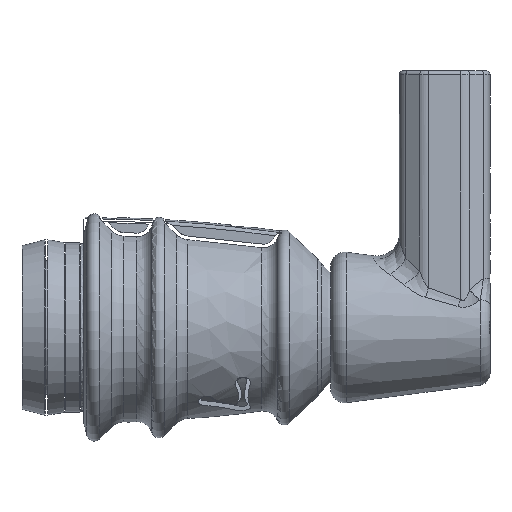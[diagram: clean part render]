
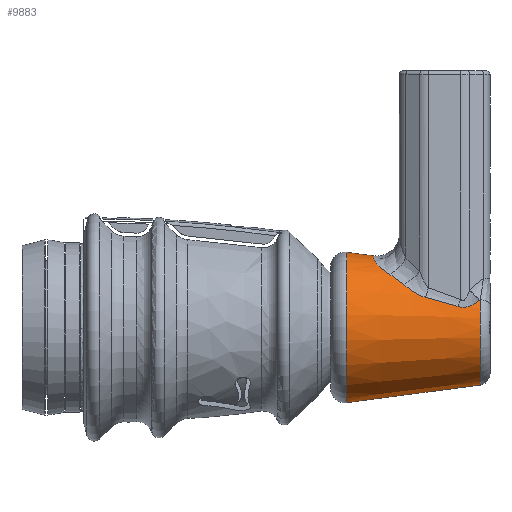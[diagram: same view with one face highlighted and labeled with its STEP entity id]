
A CAD part, left-side view. The second image highlights one B-rep face of the part: STEP entity #9883.
In plain terms, the highlighted conical face has half-angle 7.543 degrees and reference radius 8.793 mm.
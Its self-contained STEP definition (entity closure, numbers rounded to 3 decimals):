
#6192=DIRECTION('',(0.,0.991,0.131));
#6193=VECTOR('',#6192,3.616);
#6194=CARTESIAN_POINT('',(0.,-23.96,9.488));
#6195=LINE('',#6194,#6193);
#6196=CARTESIAN_POINT('',(0.,-23.96,0.));
#6197=DIRECTION('',(0.,-1.,0.));
#6198=DIRECTION('',(0.,0.,1.));
#6199=AXIS2_PLACEMENT_3D('',#6196,#6197,#6198);
#6201=CARTESIAN_POINT('',(-2.767,-23.96,
9.076));
#6202=CARTESIAN_POINT('',(-2.847,-23.96,
9.051));
#6203=CARTESIAN_POINT('',(-3.008,-23.967,
8.999));
#6204=CARTESIAN_POINT('',(-3.254,-23.997,
8.909));
#6205=CARTESIAN_POINT('',(-3.502,-24.048,
8.807));
#6206=CARTESIAN_POINT('',(-3.754,-24.122,
8.692));
#6207=CARTESIAN_POINT('',(-4.009,-24.221,
8.563));
#6208=CARTESIAN_POINT('',(-4.266,-24.346,
8.42));
#6209=CARTESIAN_POINT('',(-4.524,-24.5,
8.261));
#6210=CARTESIAN_POINT('',(-4.78,-24.684,
8.087));
#6211=CARTESIAN_POINT('',(-5.033,-24.901,
7.898));
#6212=CARTESIAN_POINT('',(-5.28,-25.151,
7.695));
#6213=CARTESIAN_POINT('',(-5.515,-25.432,
7.482));
#6214=CARTESIAN_POINT('',(-5.734,-25.744,
7.263));
#6215=CARTESIAN_POINT('',(-5.869,-25.973,
7.114));
#6216=CARTESIAN_POINT('',(-5.933,-26.093,
7.039));
#6218=CARTESIAN_POINT('',(-5.933,-26.093,
7.039));
#6219=CARTESIAN_POINT('',(-6.048,-26.307,
6.905));
#6220=CARTESIAN_POINT('',(-6.275,-26.731,
6.628));
#6221=CARTESIAN_POINT('',(-6.605,-27.347,
6.18));
#6222=CARTESIAN_POINT('',(-6.818,-27.743,
5.859));
#6223=CARTESIAN_POINT('',(-6.922,-27.936,
5.692));
#6225=CARTESIAN_POINT('',(-6.922,-27.936,
5.692));
#6226=CARTESIAN_POINT('',(-6.967,-28.02,
5.62));
#6227=CARTESIAN_POINT('',(-7.049,-28.183,
5.483));
#6228=CARTESIAN_POINT('',(-7.149,-28.412,
5.3));
#6229=CARTESIAN_POINT('',(-7.232,-28.624,
5.138));
#6230=CARTESIAN_POINT('',(-7.299,-28.816,
4.997));
#6231=CARTESIAN_POINT('',(-7.355,-28.998,
4.87));
#6232=CARTESIAN_POINT('',(-7.405,-29.179,
4.751));
#6233=CARTESIAN_POINT('',(-7.45,-29.368,
4.632));
#6234=CARTESIAN_POINT('',(-7.491,-29.567,
4.515));
#6235=CARTESIAN_POINT('',(-7.525,-29.775,
4.402));
#6236=CARTESIAN_POINT('',(-7.554,-29.987,
4.297));
#6237=CARTESIAN_POINT('',(-7.574,-30.195,
4.205));
#6238=CARTESIAN_POINT('',(-7.587,-30.403,
4.124));
#6239=CARTESIAN_POINT('',(-7.593,-30.614,
4.054));
#6240=CARTESIAN_POINT('',(-7.592,-30.742,
4.019));
#6241=CARTESIAN_POINT('',(-7.591,-30.804,
4.004));
#6243=CARTESIAN_POINT('',(-7.591,-30.804,
4.004));
#6244=CARTESIAN_POINT('',(-7.584,-31.157,
3.917));
#6245=CARTESIAN_POINT('',(-7.569,-31.857,
3.741));
#6246=CARTESIAN_POINT('',(-7.55,-32.835,
3.482));
#6247=CARTESIAN_POINT('',(-7.528,-33.892,
3.186));
#6248=CARTESIAN_POINT('',(-7.512,-34.696,
2.942));
#6249=CARTESIAN_POINT('',(-7.504,-35.116,
2.805));
#6251=CARTESIAN_POINT('',(-7.504,-35.116,
2.805));
#6252=CARTESIAN_POINT('',(-7.503,-35.162,
2.79));
#6253=CARTESIAN_POINT('',(-7.5,-35.25,
2.764));
#6254=CARTESIAN_POINT('',(-7.494,-35.371,
2.735));
#6255=CARTESIAN_POINT('',(-7.486,-35.483,
2.714));
#6256=CARTESIAN_POINT('',(-7.476,-35.587,
2.699));
#6257=CARTESIAN_POINT('',(-7.466,-35.686,
2.69));
#6258=CARTESIAN_POINT('',(-7.454,-35.782,
2.685));
#6259=CARTESIAN_POINT('',(-7.44,-35.88,
2.684));
#6260=CARTESIAN_POINT('',(-7.425,-35.982,
2.689));
#6261=CARTESIAN_POINT('',(-7.406,-36.09,
2.699));
#6262=CARTESIAN_POINT('',(-7.383,-36.206,
2.715));
#6263=CARTESIAN_POINT('',(-7.356,-36.334,
2.741));
#6264=CARTESIAN_POINT('',(-7.322,-36.476,
2.778));
#6265=CARTESIAN_POINT('',(-7.281,-36.628,
2.827));
#6266=CARTESIAN_POINT('',(-7.234,-36.788,
2.889));
#6267=CARTESIAN_POINT('',(-7.178,-36.96,
2.966));
#6268=CARTESIAN_POINT('',(-7.113,-37.142,
3.06));
#6269=CARTESIAN_POINT('',(-7.036,-37.334,
3.171));
#6270=CARTESIAN_POINT('',(-6.947,-37.538,
3.3));
#6271=CARTESIAN_POINT('',(-6.842,-37.754,
3.45));
#6272=CARTESIAN_POINT('',(-6.759,-37.906,
3.565));
#6273=CARTESIAN_POINT('',(-6.715,-37.984,
3.626));
#6275=CARTESIAN_POINT('',(-6.715,-37.984,
3.626));
#6276=CARTESIAN_POINT('',(-6.71,-37.992,
3.632));
#6277=CARTESIAN_POINT('',(-6.702,-38.007,
3.643));
#6278=CARTESIAN_POINT('',(-6.689,-38.029,
3.66));
#6279=CARTESIAN_POINT('',(-6.681,-38.044,
3.672));
#6280=CARTESIAN_POINT('',(-6.677,-38.051,
3.678));
#6282=DIRECTION('',(0.,0.991,-0.131));
#6283=VECTOR('',#6282,17.829);
#6284=CARTESIAN_POINT('',(0.,-38.051,-7.622));
#6285=LINE('',#6284,#6283);
#7369=CARTESIAN_POINT('',(0.,-38.051,0.));
#7370=DIRECTION('',(0.,1.,0.));
#7371=DIRECTION('',(0.,0.,-1.));
#7372=AXIS2_PLACEMENT_3D('',#7369,#7370,#7371);
#7550=CARTESIAN_POINT('',(0.,-20.376,0.));
#7551=DIRECTION('',(0.,-1.,0.));
#7552=DIRECTION('',(0.,0.,1.));
#7553=AXIS2_PLACEMENT_3D('',#7550,#7551,#7552);
#9122=CARTESIAN_POINT('',(0.,-38.051,-7.622));
#9123=CARTESIAN_POINT('',(0.,-20.376,-9.963));
#9124=VERTEX_POINT('',#9122);
#9125=VERTEX_POINT('',#9123);
#9126=CARTESIAN_POINT('',(0.,-23.96,9.488));
#9127=CARTESIAN_POINT('',(0.,-20.376,9.963));
#9128=VERTEX_POINT('',#9126);
#9129=VERTEX_POINT('',#9127);
#9396=VERTEX_POINT('',#6275);
#9397=VERTEX_POINT('',#6280);
#9398=VERTEX_POINT('',#6251);
#9399=VERTEX_POINT('',#6243);
#9402=VERTEX_POINT('',#6225);
#9403=VERTEX_POINT('',#6218);
#9404=VERTEX_POINT('',#6201);
#9856=CARTESIAN_POINT('',(0.,-29.214,0.));
#9857=DIRECTION('',(0.,1.,0.));
#9858=DIRECTION('',(0.,0.,1.));
#9859=AXIS2_PLACEMENT_3D('',#9856,#9857,#9858);
#9860=CONICAL_SURFACE('',#9859,8.793,7.543);
#9861=ORIENTED_EDGE('',*,*,#9831,.F.);
#9863=ORIENTED_EDGE('',*,*,#9862,.T.);
#9865=ORIENTED_EDGE('',*,*,#9864,.T.);
#9867=ORIENTED_EDGE('',*,*,#9866,.T.);
#9869=ORIENTED_EDGE('',*,*,#9868,.T.);
#9871=ORIENTED_EDGE('',*,*,#9870,.T.);
#9873=ORIENTED_EDGE('',*,*,#9872,.T.);
#9875=ORIENTED_EDGE('',*,*,#9874,.T.);
#9877=ORIENTED_EDGE('',*,*,#9876,.F.);
#9878=ORIENTED_EDGE('',*,*,#9835,.T.);
#9880=ORIENTED_EDGE('',*,*,#9879,.F.);
#9881=EDGE_LOOP('',(#9861,#9863,#9865,#9867,#9869,#9871,#9873,#9875,#9877,#9878,
#9880));
#9882=FACE_OUTER_BOUND('',#9881,.F.);
#9883=ADVANCED_FACE('',(#9882),#9860,.T.);
#6200=CIRCLE('',#6199,9.488);
#6217=B_SPLINE_CURVE_WITH_KNOTS('',3,(#6201,#6202,#6203,#6204,#6205,#6206,#6207,
#6208,#6209,#6210,#6211,#6212,#6213,#6214,#6215,#6216),.UNSPECIFIED.,.F.,.F.,(4,
1,1,1,1,1,1,1,1,1,1,1,1,4),(0.,0.077,0.154,
0.231,0.308,0.385,0.462,
0.538,0.615,0.692,0.769,
0.846,0.923,1.),.UNSPECIFIED.);
#6224=B_SPLINE_CURVE_WITH_KNOTS('',3,(#6218,#6219,#6220,#6221,#6222,#6223),
.UNSPECIFIED.,.F.,.F.,(4,1,1,4),(0.,0.333,0.667,1.),
.UNSPECIFIED.);
#6242=B_SPLINE_CURVE_WITH_KNOTS('',3,(#6225,#6226,#6227,#6228,#6229,#6230,#6231,
#6232,#6233,#6234,#6235,#6236,#6237,#6238,#6239,#6240,#6241),.UNSPECIFIED.,.F.,
.F.,(4,1,1,1,1,1,1,1,1,1,1,1,1,1,4),(0.,0.071,0.143,
0.214,0.286,0.357,0.429,0.5,
0.571,0.643,0.714,0.786,
0.857,0.929,1.),.UNSPECIFIED.);
#6250=B_SPLINE_CURVE_WITH_KNOTS('',3,(#6243,#6244,#6245,#6246,#6247,#6248,
#6249),.UNSPECIFIED.,.F.,.F.,(4,1,1,1,4),(0.,0.25,0.5,0.75,1.),
.UNSPECIFIED.);
#6274=B_SPLINE_CURVE_WITH_KNOTS('',3,(#6251,#6252,#6253,#6254,#6255,#6256,#6257,
#6258,#6259,#6260,#6261,#6262,#6263,#6264,#6265,#6266,#6267,#6268,#6269,#6270,
#6271,#6272,#6273),.UNSPECIFIED.,.F.,.F.,(4,1,1,1,1,1,1,1,1,1,1,1,1,1,1,1,1,1,1,
1,4),(0.,0.05,0.1,0.15,0.2,0.25,0.3,0.35,0.4,0.45,0.5,
0.55,0.6,0.65,0.7,0.75,0.8,0.85,0.9,0.95,1.),.UNSPECIFIED.);
#6281=B_SPLINE_CURVE_WITH_KNOTS('',3,(#6275,#6276,#6277,#6278,#6279,#6280),
.UNSPECIFIED.,.F.,.F.,(4,1,1,4),(0.,0.333,0.667,1.),
.UNSPECIFIED.);
#7373=CIRCLE('',#7372,7.622);
#7554=CIRCLE('',#7553,9.963);
#9831=EDGE_CURVE('',#9128,#9129,#6195,.T.);
#9835=EDGE_CURVE('',#9124,#9125,#6285,.T.);
#9862=EDGE_CURVE('',#9128,#9404,#6200,.T.);
#9864=EDGE_CURVE('',#9404,#9403,#6217,.T.);
#9866=EDGE_CURVE('',#9403,#9402,#6224,.T.);
#9868=EDGE_CURVE('',#9402,#9399,#6242,.T.);
#9870=EDGE_CURVE('',#9399,#9398,#6250,.T.);
#9872=EDGE_CURVE('',#9398,#9396,#6274,.T.);
#9874=EDGE_CURVE('',#9396,#9397,#6281,.T.);
#9876=EDGE_CURVE('',#9124,#9397,#7373,.T.);
#9879=EDGE_CURVE('',#9129,#9125,#7554,.T.);
